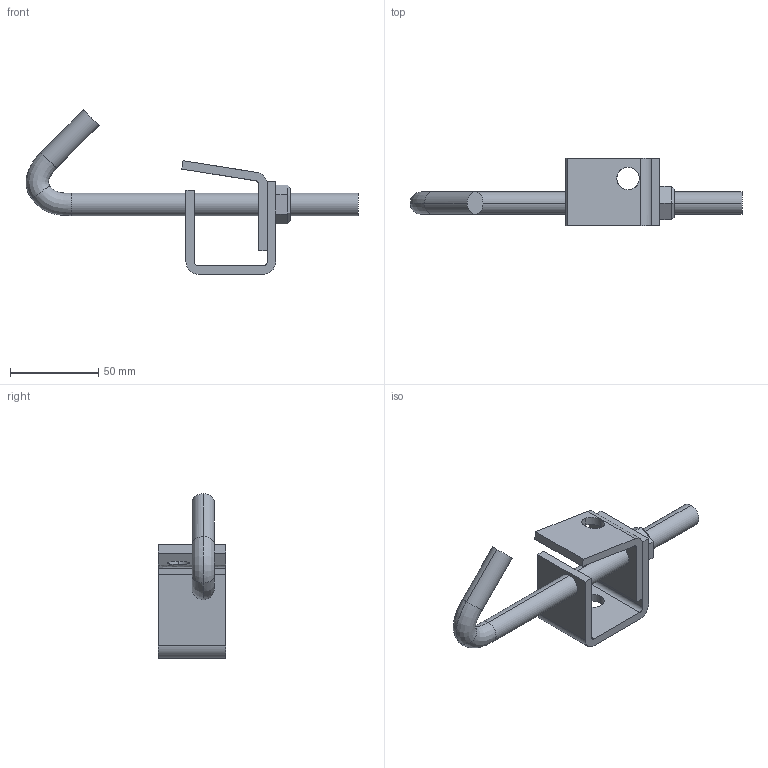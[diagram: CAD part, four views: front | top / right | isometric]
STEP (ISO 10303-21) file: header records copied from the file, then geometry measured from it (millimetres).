
FILE_DESCRIPTION(('TurboCAD Mac Pro'),'Build 980');
FILE_NAME('P2824-6.stp',' ',(''),(''),'ACIS Interop','IMSI','TurboCAD Mac Pro BY IMSI, INCORPORATED');
FILE_SCHEMA(('automotive_design'));
Length unit declared in the file: inch
Products named in the file (4): 1; 2; 3; 4
Bounding box: 187.94 x 38.1 x 93.08 mm (x, y, z)
Volume: 68906.1 mm3; surface area: 30421.2 mm2
Topology: 4 solids, 4 shells, 66 faces, 169 edges, 108 vertices
Faces by surface type: plane 34, bspline 22, cylinder 10
Entity records: 4125 total; most frequent: CARTESIAN_POINT 1401, ORIENTED_EDGE 330, DIRECTION 241, STYLED_ITEM 197, PRESENTATION_STYLE_ASSIGNMENT 197, COLOUR_RGB 197, EDGE_CURVE 165, CURVE_STYLE 127
